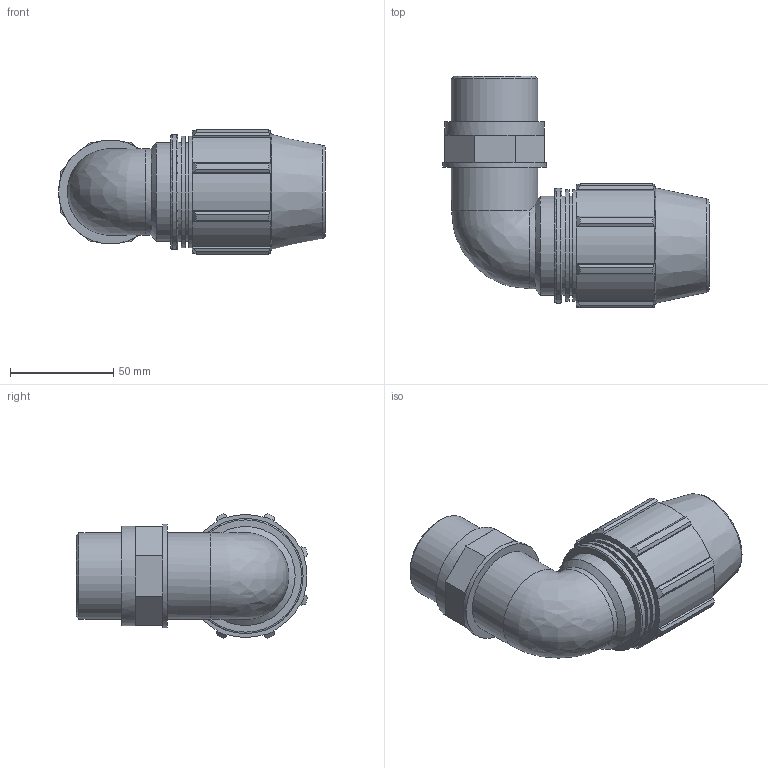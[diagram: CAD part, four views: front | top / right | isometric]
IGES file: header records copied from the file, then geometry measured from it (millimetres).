
Global section: file name: 077700032013_187700032013_0777060320130A.ipt; native system: Autodesk Inventor 2015; preprocessor: unknown; author: KIM; date: 20170622.103056; units: millimetre
Bounding box: 129.15 x 112.11 x 60.22 mm (x, y, z)
Volume: 212947.3 mm3; surface area: 52030.8 mm2
Topology: 1 solids, 1 shells, 125 faces, 320 edges, 205 vertices
Faces by surface type: plane 76, cylinder 27, cone 12, revolution 9, bspline 1
Full cylindrical faces by diameter (mm): 41.91 x2, 48 x3, 48.197 x1, 50.292 x1, 54.01 x2, 55.68 x1
